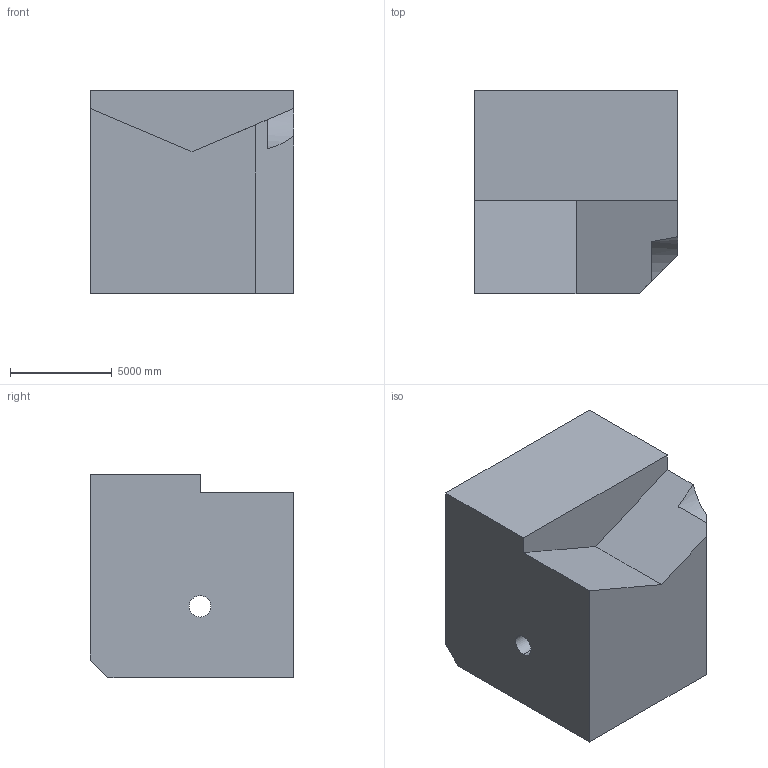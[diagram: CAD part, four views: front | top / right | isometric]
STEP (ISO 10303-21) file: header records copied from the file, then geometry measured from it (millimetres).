
FILE_DESCRIPTION (( 'STEP AP203' ), '1' );
FILE_NAME ('55.STEP', '2022-09-02T13:53:07', ( 'user' ), ( '' ), 'SwSTEP 2.0', 'SolidWorks 2021', '' );
FILE_SCHEMA (( 'CONFIG_CONTROL_DESIGN' ));
Length unit declared in the file: centimetre
Products named in the file (1): 55
Bounding box: 10000 x 10000 x 10000 mm (x, y, z)
Volume: 879672928754.8 mm3; surface area: 613236511.4 mm2
Topology: 1 solids, 1 shells, 20 faces, 51 edges, 34 vertices
Faces by surface type: plane 17, cylinder 3
Entity records: 682 total; most frequent: CARTESIAN_POINT 112, ORIENTED_EDGE 102, DIRECTION 97, EDGE_CURVE 51, VECTOR 43, LINE 43, VERTEX_POINT 34, AXIS2_PLACEMENT_3D 27
